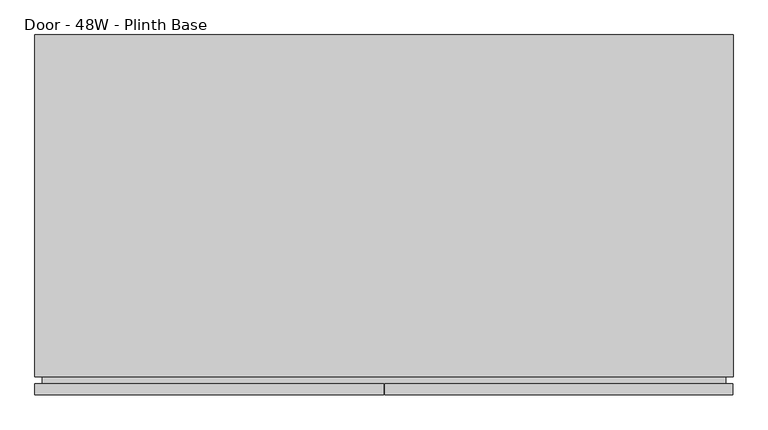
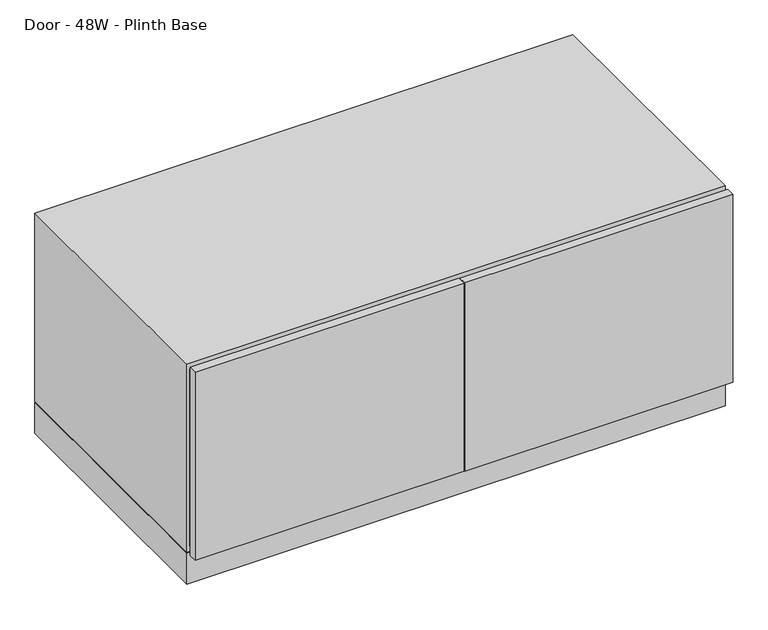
"""IFC4 building model written with IfcOpenShell, lengths in millimetres: furniture geometry, Steelcase Coalesse - Exponents - Storage - Credenza - 21H : Door - 48W - Plinth Base."""

from ifc_helpers import new_model, si_unit, point, frame, frame_2d, origin, origin_with_axes, place, context, project, spatial, polyline, circle_curve, trimmed, segment, composite_curve, outline, extrude, faceted_brep, source, transform, mapped, element, save


def door_48w_plinth_base_9e7d4544(model_context):
    return source(origin(), model_context, "Body", "SolidModel", [
        faceted_brep([(6.35, 31.75, 520.7), (6.35, 31.75, 95.25), (6.35, 622.3, 95.25), (6.35, 622.3, 520.7), (1212.85, 622.3, 95.25), (1212.85, 622.3, 520.7), (1212.85, 31.75, 95.25), (1212.85, 31.75, 520.7), (0.0, 31.75, 82.55), (1219.2, 31.75, 82.55), (1219.2, 31.75, 533.4), (0.0, 31.75, 533.4), (1219.2, 628.65, 82.55), (1219.2, 628.65, 533.4), (0.0, 628.65, 82.55), (0.0, 628.65, 533.4)], [[[0, 1, 2, 3]], [[3, 2, 4, 5]], [[5, 4, 6, 7]], [[8, 9, 10, 11], [7, 6, 1, 0]], [[10, 9, 12, 13]], [[13, 12, 14, 15]], [[15, 14, 8, 11]], [[7, 0, 3, 5]], [[10, 13, 15, 11]], [[1, 6, 4, 2]], [[12, 9, 8, 14]]]),
        extrude(outline(polyline([(520.7, 1206.5), (520.7, 12.7), (95.25, 12.7), (95.25, 1206.5), (520.7, 1206.5)]), holes=[polyline([(514.35, 1200.15), (101.6, 1200.15), (101.6, 19.05), (514.35, 19.05), (514.35, 1200.15)])]), frame((0.0, 19.05, 0.0), z_axis=(0.0, 1.0, 0.0), x_axis=(0.0, 0.0, 1.0)), (0.0, 0.0, 1.0), 31.75),
        extrude(outline(composite_curve([segment(trimmed(circle_curve(frame_2d((19.05, 593.5667033)), 6.35), [point((12.7, 593.5667033))], [point((25.4, 593.5667033))], False, "CARTESIAN"), True, "CONTINUOUS"), segment(trimmed(circle_curve(frame_2d((19.05, 593.5667033)), 6.35), [point((25.4, 593.5667033))], [point((12.7, 593.5667033))], False, "CARTESIAN"), True, "CONTINUOUS")], self_intersect=False)), origin_with_axes(), (0.0, 0.0, 1.0), 6.35),
        extrude(outline(composite_curve([segment(trimmed(circle_curve(frame_2d((19.05, 66.7867854)), 6.35), [point((12.7, 66.7867854))], [point((25.4, 66.7867854))], False, "CARTESIAN"), True, "CONTINUOUS"), segment(trimmed(circle_curve(frame_2d((19.05, 66.7867854)), 6.35), [point((25.4, 66.7867854))], [point((12.7, 66.7867854))], False, "CARTESIAN"), True, "CONTINUOUS")], self_intersect=False)), origin_with_axes(), (0.0, 0.0, 1.0), 6.35),
        extrude(outline(composite_curve([segment(trimmed(circle_curve(frame_2d((1200.15, 593.5667033)), 6.35), [point((1193.8, 593.5667033))], [point((1206.5, 593.5667033))], False, "CARTESIAN"), True, "CONTINUOUS"), segment(trimmed(circle_curve(frame_2d((1200.15, 593.5667033)), 6.35), [point((1206.5, 593.5667033))], [point((1193.8, 593.5667033))], False, "CARTESIAN"), True, "CONTINUOUS")], self_intersect=False)), origin_with_axes(), (0.0, 0.0, 1.0), 6.35),
        extrude(outline(composite_curve([segment(trimmed(circle_curve(frame_2d((1200.15, 66.7867854)), 6.35), [point((1193.8, 66.7867854))], [point((1206.5, 66.7867854))], False, "CARTESIAN"), True, "CONTINUOUS"), segment(trimmed(circle_curve(frame_2d((1200.15, 66.7867854)), 6.35), [point((1206.5, 66.7867854))], [point((1193.8, 66.7867854))], False, "CARTESIAN"), True, "CONTINUOUS")], self_intersect=False)), origin_with_axes(), (0.0, 0.0, 1.0), 6.35),
        extrude(outline(polyline([(1218.4126, 19.05), (1218.4126, 0.0), (610.5652, 0.0), (610.5652, 19.05), (1218.4126, 19.05)])), frame((0.0, 0.0, 82.55), z_axis=(0.0, 0.0, 1.0), x_axis=(1.0, 0.0, 0.0)), (0.0, 0.0, 1.0), 450.85),
        extrude(outline(polyline([(608.965, 19.05), (608.965, 0.0), (0.0, 0.0), (0.0, 19.05), (608.965, 19.05)])), frame((0.0, 0.0, 82.55), z_axis=(0.0, 0.0, 1.0), x_axis=(1.0, 0.0, 0.0)), (0.0, 0.0, 1.0), 450.85),
        extrude(outline(polyline([(0.0, -19.05), (0.0, 0.0), (31.75, 0.0), (31.75, -19.05), (0.0, -19.05)])), frame((590.55, 19.05, 101.6), z_axis=(3.3608671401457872e-12, 0.0, 1.0), x_axis=(0.0, 1.0, 0.0)), (0.0, 0.0, 1.0), 412.75),
        extrude(outline(polyline([(1219.2, 628.65), (1219.2, 31.75), (0.0, 31.75), (0.0, 628.65), (1219.2, 628.65)]), holes=[polyline([(1200.15, 622.3), (19.05, 622.3), (19.05, 38.1), (1200.15, 38.1), (1200.15, 622.3)])]), frame((0.0, 0.0, 6.35), z_axis=(0.0, 0.0, 1.0), x_axis=(1.0, 0.0, 0.0)), (0.0, 0.0, 1.0), 73.4568),
        extrude(outline(polyline([(590.55, 609.6), (609.6, 609.6), (609.6, 50.8), (590.55, 50.8), (590.55, 609.6)])), frame((0.0, 0.0, 95.25), z_axis=(0.0, 0.0, 1.0), x_axis=(1.0, 0.0, 0.0)), (0.0, 0.0, 1.0), 425.45),
    ])


if __name__ == "__main__":
    model = new_model("IFC4")
    model_context = context("Model", 3, world=origin())
    ifc_project = project(units=[si_unit("LENGTHUNIT", "METRE", prefix="MILLI")], contexts=[model_context])
    site = spatial("IfcSite", under=ifc_project)
    building = spatial("IfcBuilding", under=site)
    placement = place(None, origin())
    door_48w_plinth_base_shape = door_48w_plinth_base_9e7d4544(model_context)
    element("IfcFurniture", 1, ObjectType="Steelcase Coalesse - Exponents - Storage - Credenza - 21H : Door - 48W - Plinth Base", at=placement, inside=building, context=model_context, shape_type="MappedRepresentation", body=[
        mapped(door_48w_plinth_base_shape, transform((0.0, 0.0, 0.0), x_axis=(1.0, 0.0, 0.0), y_axis=(0.0, 1.0, 0.0), z_axis=(0.0, 0.0, 1.0))),
    ])
    save(model, "model.ifc")
